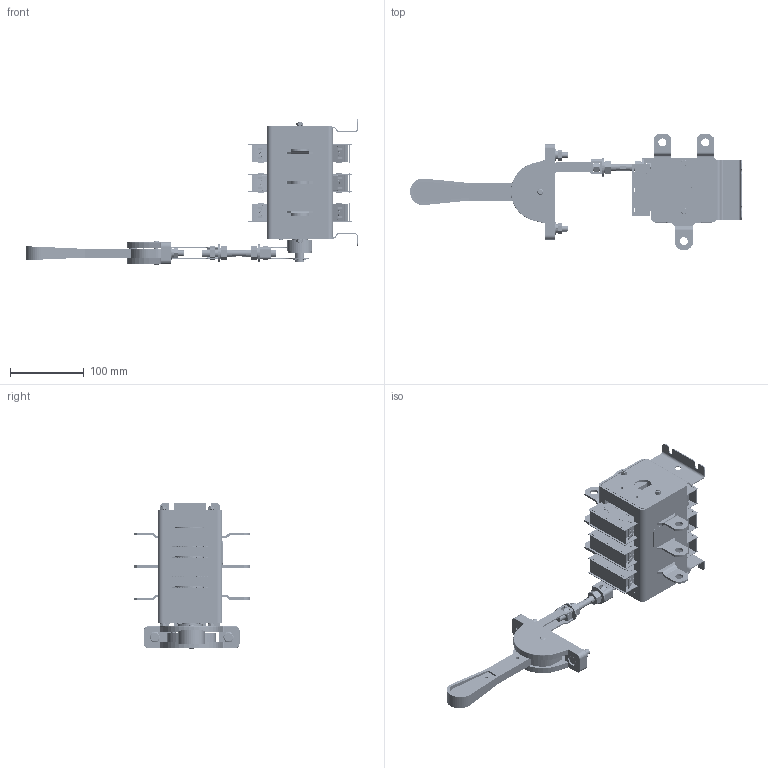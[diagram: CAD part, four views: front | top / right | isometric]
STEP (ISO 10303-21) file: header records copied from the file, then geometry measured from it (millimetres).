
FILE_DESCRIPTION (( 'STEP AP214' ), '1' );
FILE_NAME ('ﾂﾐ32-35ﾔ(2) ﾃﾆﾈﾊ.642523.010-07 (ﾀ71240-250ﾀ).STEP', '2023-04-18T13:09:33', ( '' ), ( '' ), 'SwSTEP 2.0', 'SolidWorks 2018', '' );
FILE_SCHEMA (( 'AUTOMOTIVE_DESIGN' ));
Length unit declared in the file: millimetre
Products named in the file (62): Ïîâîäîê ÃÆÈÊ.304594.012CÁ_2 ­ ¯à ¢«¥­¨ï; 务黖闷仁.715411.024; 挓鎀霠罻; 想囫蜩磬_闷仁.745355.029; ﾏ跖浯 ﾃﾆﾈﾊ.753553.016; ﾘ琺矜 5 65ﾃ 016; Ðóêîÿòêà_ÃÆÈÊ.303658.018_2 ­ ¯à ¢«¥­¨ï; 想囫蜩磬_闷仁.745355.026; Øàéáà ñïåöèàëüíàÿ; îñü023; ﾎ_ﾃﾆﾈﾊ.715411.027_-01 (癸ｮ爼); 殃钺郷闷仁.746743.010; Èñêðîãàñèòåëü ÃÆÈÊ.686433.011 ÑÁ; Âûâîä ÃÆÈÊ.745485.013_‚ë¢®¤_ƒ†ˆŠ.745485.013; Òàáëè÷êà äëÿ ñáîðêè ÷èñòàÿ áîëüøàÿ; Êîðïóñ ëåâûé ÃÆÈÊ.735384.059; 仫桦郷闷仁.758292.007; ÏîâîäîêÃÆÈÊ.741321.006_2 ­ ¯à; Ïðóæèíà_250À_-01(¤«ï á¡®àª¨); Îñü; 殃钺郷闷仁.301535.004蚜; 婰膲僗闉_005; 澡犟囹铕 闷仁.745484.003; 青汶篪赅_闷仁.735211.002; Ãàéêà 2Ì10-6Í.5.016; Áîêîâèíà ïðàâàÿ ÃÆÈÊ.735224.031; 殃钺郷闷仁.745327.027_帷獱; Øïèëüêà Ì5 ÃÆÈÊ.758292.004; 婰膲僗闉010; Òàáëè÷êà äëÿ ñáîðêè ÷èñòàÿ; Ãàéêà 2Ì8-6Í.5.016; ﾂ鏆鮏 ﾃﾆﾈﾊ.745485.015; Êîíòàêò ïîäâèæíûé ÃÆÈÊ.685179.158; ﾘ琺矜 8 65ﾃ 016; 瀇僔蠂縺019; Ãàéêà Ì5-6Í.5.016; 羊屙赅_闷仁.741226.006; Âûâîä ÃÆÈÊ.745485.013_‚ë¢®¤_ƒ†ˆŠ.745485.013-01; 砑僔蠂縺_009; ﾘ琺矜 10 65ﾃ 016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
Assembly tree (106 placements, depth 5):
  ﾂﾐ32-35ﾔ(2) ﾃﾆﾈﾊ.642523.010-07 (ﾀ71240-250ﾀ)
    暑痫篑 镳噔 闷仁.735384.055
    Êîðïóñ ñðåäíèé ÃÆÈÊ.735384.057  x2
    Êîðïóñ ëåâûé ÃÆÈÊ.735384.059
    ﾂ琿 ﾃﾆﾈﾊ.715274.006
    Áîêîâèíà ïðàâàÿ ÃÆÈÊ.735224.031
    Áîêîâèíà ëåâàÿ ÃÆÈÊ.735224.031
    ﾂ鏆鮏 ﾃﾆﾈﾊ.745485.015_1  x2
    ﾂ鏆鮏 ﾃﾆﾈﾊ.745485.015
    Âûâîä ÃÆÈÊ.745485.013_‚ë¢®¤_ƒ†ˆŠ.745485.013-02  x2
    Âûâîä ÃÆÈÊ.745485.013_‚ë¢®¤_ƒ†ˆŠ.745485.013-01  x2
    Âûâîä ÃÆÈÊ.745485.013_‚ë¢®¤_ƒ†ˆŠ.745485.013  x2
    Êàìåðà äóãîãàñèòåëüíàÿ ÃÆÈÊ.686431.029  x6
      羊屙赅_闷仁.741226.006
      锐牮钽囫栩咫黖闷仁.741271.006
      想囫蜩磬_闷仁.745355.026
      Èñêðîãàñèòåëü ÃÆÈÊ.686433.011 ÑÁ
        锐牮钽囫栩咫黖闷仁.741271.006_sborka
        殃钺郷闷仁.746743.010
    Øïèëüêà Ì5 ÃÆÈÊ.758292.004  x2
    Êîíòàêò ïîäâèæíûé ÃÆÈÊ.685179.158  x3
      Êîíòàêò ïîäâèæíûé_ÃÆÈÊ.745355.024
      砑僔蠂縺_009
      Îñü
      Ïðóæèíà_250À_-01(¤«ï á¡®àª¨)
      婰膲僗闉_005
    ﾏ跖浯 ﾃﾆﾈﾊ.753553.016  x2
    澡犟囹铕 闷仁.745484.003  x2
    Òàáëè÷êà äëÿ ñáîðêè ÷èñòàÿ
    Òàáëè÷êà äëÿ ñáîðêè ÷èñòàÿ áîëüøàÿ
    Ãàéêà Ì5-6Í.5.016  x4
    ﾘ琺矜 5 65ﾃ 016  x4
    Ðóêîÿòêà ÃÆÈÊ.303658.014_-01
      暑痫篑_闷仁.735384.053_儐垔.735384.053-01
      Ðóêîÿòêà_ÃÆÈÊ.303658.012ÑÁ
        瀇僔蠂縺019
        挓鎀霠罻
      îñü023
      Ñêîáà010
      婰膲僗闉010
      Ïðóæ014(13)_¤«ï á¡®àª¨
      殃钺郷闷仁.301535.003蚜
        Ãàéêà 2Ì10-6Í.5.016
        殃钺郷闷仁.745327.019_帷獱
      务黖闷仁.715411.024
      仫桦郷闷仁.758292.007
      殃钺郷闷仁.301535.004蚜
        殃钺郷闷仁.745327.027_帷獱
        Ãàéêà 2Ì10-6Í.5.016
      Ðóêîÿòêà_ÃÆÈÊ.303658.018_2 ­ ¯à ¢«¥­¨ï
        Ïîâîäîê ÃÆÈÊ.304594.012CÁ_2 ­ ¯à ¢«¥­¨ï
          ÏîâîäîêÃÆÈÊ.741321.006_2 ­ ¯à
          ﾎ_ﾃﾆﾈﾊ.715411.027_-01 (癸ｮ爼)
          想囫蜩磬_闷仁.745355.029
        Îáîëî÷êà_100-400_2 ­ ¯à ¢«¥­¨ï
      Ãàéêà 2Ì10-6Í.5.016  x2
      ﾘ琺矜 ⅰⅱ浯 ﾃﾆﾈﾊ.758491.067
      青汶篪赅_闷仁.735211.002
      Áîëò Ì8õ25.58.019  x2
      ﾘ琺矜 8.01.019  x2
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Bounding box: 451.04 x 158.59 x 198.4 mm (x, y, z)
Volume: 785322.7 mm3; surface area: 613743.5 mm2
Topology: 188 solids, 188 shells, 7531 faces, 19696 edges, 12550 vertices
Faces by surface type: plane 5211, cylinder 1805, torus 298, cone 118, bspline 93, sphere 6
Entity records: 83978 total; most frequent: CARTESIAN_POINT 20610, DIRECTION 11624, ORIENTED_EDGE 11046, EDGE_CURVE 5523, AXIS2_PLACEMENT_3D 3983, VECTOR 3658, LINE 3658, VERTEX_POINT 3538
